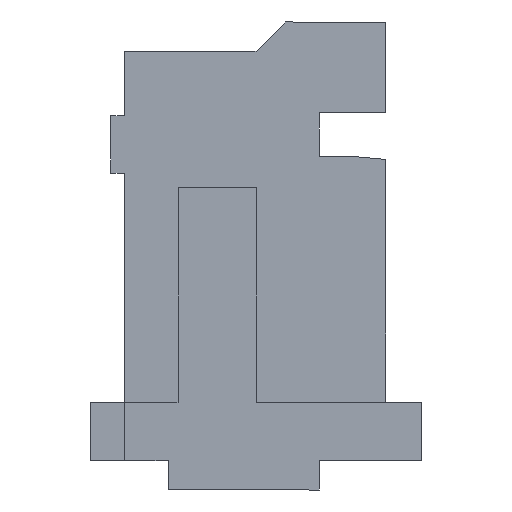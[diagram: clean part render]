
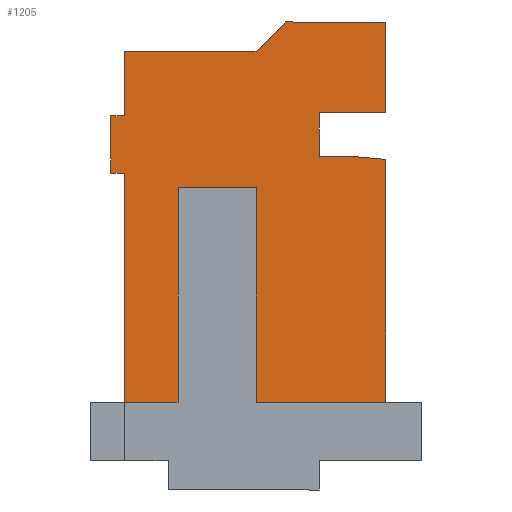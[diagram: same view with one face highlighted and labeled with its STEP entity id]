
A CAD part, left-side view. The second image highlights one B-rep face of the part: STEP entity #1205.
In plain terms, the highlighted planar face has unit normal (-1, 0, 0).
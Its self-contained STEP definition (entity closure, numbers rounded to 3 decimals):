
#644 = CARTESIAN_POINT ( 'NONE',  ( -2.594, 0.318, 0.989 ) ) ;
#651 = CARTESIAN_POINT ( 'NONE',  ( -2.594, 0.998, 1.018 ) ) ;
#707 = DIRECTION ( 'NONE',  ( 0., -1., 0. ) ) ;
#708 = VECTOR ( 'NONE', #707, 1000. ) ;
#709 = CARTESIAN_POINT ( 'NONE',  ( -2.594, 2.998, 1.468 ) ) ;
#710 = LINE ( 'NONE', #709, #708 ) ;
#717 = CARTESIAN_POINT ( 'NONE',  ( -2.594, 0.998, 1.468 ) ) ;
#728 = CARTESIAN_POINT ( 'NONE',  ( -2.594, 0.648, 1.018 ) ) ;
#753 = DIRECTION ( 'NONE',  ( 0., 0., 1. ) ) ;
#754 = VECTOR ( 'NONE', #753, 1000. ) ;
#755 = CARTESIAN_POINT ( 'NONE',  ( -2.594, 0.998, -1.502 ) ) ;
#756 = LINE ( 'NONE', #755, #754 ) ;
#874 = EDGE_CURVE ( 'NONE', #1458, #1290, #1718, .T. ) ;
#878 = EDGE_CURVE ( 'NONE', #879, #1105, #1714, .T. ) ;
#879 = VERTEX_POINT ( 'NONE', #1710 ) ;
#945 = EDGE_CURVE ( 'NONE', #968, #957, #756, .T. ) ;
#950 = VERTEX_POINT ( 'NONE', #728 ) ;
#957 = VERTEX_POINT ( 'NONE', #717 ) ;
#963 = EDGE_CURVE ( 'NONE', #957, #1322, #710, .T. ) ;
#968 = VERTEX_POINT ( 'NONE', #651 ) ;
#974 = VERTEX_POINT ( 'NONE', #644 ) ;
#976 = EDGE_CURVE ( 'NONE', #977, #974, #1795, .T. ) ;
#977 = VERTEX_POINT ( 'NONE', #1883 ) ;
#1105 = VERTEX_POINT ( 'NONE', #2163 ) ;
#1192 = EDGE_CURVE ( 'NONE', #974, #950, #2416, .T. ) ;
#1205 = ADVANCED_FACE ( 'NONE', ( #2377 ), #2362, .T. ) ;
#1206 = EDGE_LOOP ( 'NONE', ( #1207, #1208, #1209, #1210, #1211, #1266, #1267, #1268, #1271, #1274, #1276, #1431, #1432, #1435, #1438, #1441, #1443, #1444, #1277 ) ) ;
#1207 = ORIENTED_EDGE ( 'NONE', *, *, #945, .T. ) ;
#1208 = ORIENTED_EDGE ( 'NONE', *, *, #963, .T. ) ;
#1209 = ORIENTED_EDGE ( 'NONE', *, *, #1321, .T. ) ;
#1210 = ORIENTED_EDGE ( 'NONE', *, *, #1449, .T. ) ;
#1211 = ORIENTED_EDGE ( 'NONE', *, *, #1460, .T. ) ;
#1265 = EDGE_CURVE ( 'NONE', #950, #968, #2638, .T. ) ;
#1266 = ORIENTED_EDGE ( 'NONE', *, *, #874, .T. ) ;
#1267 = ORIENTED_EDGE ( 'NONE', *, *, #1289, .T. ) ;
#1268 = ORIENTED_EDGE ( 'NONE', *, *, #1269, .T. ) ;
#1269 = EDGE_CURVE ( 'NONE', #1332, #1270, #2634, .T. ) ;
#1270 = VERTEX_POINT ( 'NONE', #2630 ) ;
#1271 = ORIENTED_EDGE ( 'NONE', *, *, #1272, .T. ) ;
#1272 = EDGE_CURVE ( 'NONE', #1270, #1273, #2629, .T. ) ;
#1273 = VERTEX_POINT ( 'NONE', #2668 ) ;
#1274 = ORIENTED_EDGE ( 'NONE', *, *, #1275, .T. ) ;
#1275 = EDGE_CURVE ( 'NONE', #1273, #879, #2666, .T. ) ;
#1276 = ORIENTED_EDGE ( 'NONE', *, *, #878, .T. ) ;
#1277 = ORIENTED_EDGE ( 'NONE', *, *, #1265, .T. ) ;
#1289 = EDGE_CURVE ( 'NONE', #1290, #1332, #2539, .T. ) ;
#1290 = VERTEX_POINT ( 'NONE', #2535 ) ;
#1319 = VERTEX_POINT ( 'NONE', #2882 ) ;
#1321 = EDGE_CURVE ( 'NONE', #1322, #1319, #2881, .T. ) ;
#1322 = VERTEX_POINT ( 'NONE', #2877 ) ;
#1332 = VERTEX_POINT ( 'NONE', #2849 ) ;
#1431 = ORIENTED_EDGE ( 'NONE', *, *, #1493, .T. ) ;
#1432 = ORIENTED_EDGE ( 'NONE', *, *, #1433, .T. ) ;
#1433 = EDGE_CURVE ( 'NONE', #1491, #1434, #3001, .T. ) ;
#1434 = VERTEX_POINT ( 'NONE', #2997 ) ;
#1435 = ORIENTED_EDGE ( 'NONE', *, *, #1436, .T. ) ;
#1436 = EDGE_CURVE ( 'NONE', #1434, #1437, #2996, .T. ) ;
#1437 = VERTEX_POINT ( 'NONE', #2991 ) ;
#1438 = ORIENTED_EDGE ( 'NONE', *, *, #1439, .T. ) ;
#1439 = EDGE_CURVE ( 'NONE', #1437, #1440, #2990, .T. ) ;
#1440 = VERTEX_POINT ( 'NONE', #2986 ) ;
#1441 = ORIENTED_EDGE ( 'NONE', *, *, #1442, .T. ) ;
#1442 = EDGE_CURVE ( 'NONE', #1440, #977, #2985, .T. ) ;
#1443 = ORIENTED_EDGE ( 'NONE', *, *, #976, .T. ) ;
#1444 = ORIENTED_EDGE ( 'NONE', *, *, #1192, .T. ) ;
#1447 = VERTEX_POINT ( 'NONE', #2977 ) ;
#1449 = EDGE_CURVE ( 'NONE', #1319, #1447, #2975, .T. ) ;
#1458 = VERTEX_POINT ( 'NONE', #3354 ) ;
#1460 = EDGE_CURVE ( 'NONE', #1447, #1458, #3353, .T. ) ;
#1491 = VERTEX_POINT ( 'NONE', #3290 ) ;
#1493 = EDGE_CURVE ( 'NONE', #1105, #1491, #3288, .T. ) ;
#1710 = CARTESIAN_POINT ( 'NONE',  ( -2.594, 2.998, 0.848 ) ) ;
#1711 = DIRECTION ( 'NONE',  ( 0., 0., -1. ) ) ;
#1712 = VECTOR ( 'NONE', #1711, 1000. ) ;
#1713 = CARTESIAN_POINT ( 'NONE',  ( -2.594, 2.998, 2.098 ) ) ;
#1714 = LINE ( 'NONE', #1713, #1712 ) ;
#1715 = DIRECTION ( 'NONE',  ( 0., 1., 0. ) ) ;
#1716 = VECTOR ( 'NONE', #1715, 1000. ) ;
#1717 = CARTESIAN_POINT ( 'NONE',  ( -2.594, 1.648, 2.098 ) ) ;
#1718 = LINE ( 'NONE', #1717, #1716 ) ;
#1792 = DIRECTION ( 'NONE',  ( 0., 0., 1. ) ) ;
#1793 = VECTOR ( 'NONE', #1792, 1000. ) ;
#1794 = CARTESIAN_POINT ( 'NONE',  ( -2.594, 0.318, 2.398 ) ) ;
#1795 = LINE ( 'NONE', #1794, #1793 ) ;
#1883 = CARTESIAN_POINT ( 'NONE',  ( -2.594, 0.318, -1.502 ) ) ;
#2163 = CARTESIAN_POINT ( 'NONE',  ( -2.594, 2.998, -1.502 ) ) ;
#2358 = DIRECTION ( 'NONE',  ( 0., 1., 0. ) ) ;
#2359 = DIRECTION ( 'NONE',  ( -1., 0., 0. ) ) ;
#2360 = CARTESIAN_POINT ( 'NONE',  ( -2.594, 2.998, -1.502 ) ) ;
#2361 = AXIS2_PLACEMENT_3D ( 'NONE', #2360, #2359, #2358 ) ;
#2362 = PLANE ( 'NONE',  #2361 ) ;
#2377 = FACE_OUTER_BOUND ( 'NONE', #1206, .T. ) ;
#2413 = DIRECTION ( 'NONE',  ( 0., 0.996, 0.087 ) ) ;
#2414 = VECTOR ( 'NONE', #2413, 1000. ) ;
#2415 = CARTESIAN_POINT ( 'NONE',  ( -2.594, 2.762, 1.203 ) ) ;
#2416 = LINE ( 'NONE', #2415, #2414 ) ;
#2535 = CARTESIAN_POINT ( 'NONE',  ( -2.594, 2.998, 2.098 ) ) ;
#2536 = DIRECTION ( 'NONE',  ( 0., 0., -1. ) ) ;
#2537 = VECTOR ( 'NONE', #2536, 1000. ) ;
#2538 = CARTESIAN_POINT ( 'NONE',  ( -2.594, 2.998, 2.098 ) ) ;
#2539 = LINE ( 'NONE', #2538, #2537 ) ;
#2629 = LINE ( 'NONE', #2671, #2670 ) ;
#2630 = CARTESIAN_POINT ( 'NONE',  ( -2.594, 3.138, 1.438 ) ) ;
#2631 = DIRECTION ( 'NONE',  ( 0., 1., 0. ) ) ;
#2632 = VECTOR ( 'NONE', #2631, 1000. ) ;
#2633 = CARTESIAN_POINT ( 'NONE',  ( -2.594, 2.998, 1.438 ) ) ;
#2634 = LINE ( 'NONE', #2633, #2632 ) ;
#2635 = DIRECTION ( 'NONE',  ( 0., 1., 0. ) ) ;
#2636 = VECTOR ( 'NONE', #2635, 1000. ) ;
#2637 = CARTESIAN_POINT ( 'NONE',  ( -2.594, 2.998, 1.018 ) ) ;
#2638 = LINE ( 'NONE', #2637, #2636 ) ;
#2663 = DIRECTION ( 'NONE',  ( 0., -1., 0. ) ) ;
#2664 = VECTOR ( 'NONE', #2663, 1000. ) ;
#2665 = CARTESIAN_POINT ( 'NONE',  ( -2.594, 2.998, 0.848 ) ) ;
#2666 = LINE ( 'NONE', #2665, #2664 ) ;
#2668 = CARTESIAN_POINT ( 'NONE',  ( -2.594, 3.138, 0.848 ) ) ;
#2669 = DIRECTION ( 'NONE',  ( 0., 0., -1. ) ) ;
#2670 = VECTOR ( 'NONE', #2669, 1000. ) ;
#2671 = CARTESIAN_POINT ( 'NONE',  ( -2.594, 3.138, 1.438 ) ) ;
#2849 = CARTESIAN_POINT ( 'NONE',  ( -2.594, 2.998, 1.438 ) ) ;
#2877 = CARTESIAN_POINT ( 'NONE',  ( -2.594, 0.318, 1.468 ) ) ;
#2878 = DIRECTION ( 'NONE',  ( 0., 0., 1. ) ) ;
#2879 = VECTOR ( 'NONE', #2878, 1000. ) ;
#2880 = CARTESIAN_POINT ( 'NONE',  ( -2.594, 0.318, 2.398 ) ) ;
#2881 = LINE ( 'NONE', #2880, #2879 ) ;
#2882 = CARTESIAN_POINT ( 'NONE',  ( -2.594, 0.318, 2.398 ) ) ;
#2972 = DIRECTION ( 'NONE',  ( 0., 1., 0. ) ) ;
#2973 = VECTOR ( 'NONE', #2972, 1000. ) ;
#2974 = CARTESIAN_POINT ( 'NONE',  ( -2.594, 0.318, 2.398 ) ) ;
#2975 = LINE ( 'NONE', #2974, #2973 ) ;
#2977 = CARTESIAN_POINT ( 'NONE',  ( -2.594, 1.348, 2.398 ) ) ;
#2982 = DIRECTION ( 'NONE',  ( 0., -1., 0. ) ) ;
#2983 = VECTOR ( 'NONE', #2982, 1000. ) ;
#2984 = CARTESIAN_POINT ( 'NONE',  ( -2.594, 0.318, -1.502 ) ) ;
#2985 = LINE ( 'NONE', #2984, #2983 ) ;
#2986 = CARTESIAN_POINT ( 'NONE',  ( -2.594, 1.648, -1.502 ) ) ;
#2987 = DIRECTION ( 'NONE',  ( 0., 0., -1. ) ) ;
#2988 = VECTOR ( 'NONE', #2987, 1000. ) ;
#2989 = CARTESIAN_POINT ( 'NONE',  ( -2.594, 1.648, -1.502 ) ) ;
#2990 = LINE ( 'NONE', #2989, #2988 ) ;
#2991 = CARTESIAN_POINT ( 'NONE',  ( -2.594, 1.648, 0.698 ) ) ;
#2992 = DIRECTION ( 'NONE',  ( 0., -1., 0. ) ) ;
#2994 = VECTOR ( 'NONE', #2992, 1000. ) ;
#2995 = CARTESIAN_POINT ( 'NONE',  ( -2.594, 1.648, 0.698 ) ) ;
#2996 = LINE ( 'NONE', #2995, #2994 ) ;
#2997 = CARTESIAN_POINT ( 'NONE',  ( -2.594, 2.448, 0.698 ) ) ;
#2998 = DIRECTION ( 'NONE',  ( 0., 0., 1. ) ) ;
#2999 = VECTOR ( 'NONE', #2998, 1000. ) ;
#3000 = CARTESIAN_POINT ( 'NONE',  ( -2.594, 2.448, -1.502 ) ) ;
#3001 = LINE ( 'NONE', #3000, #2999 ) ;
#3285 = DIRECTION ( 'NONE',  ( 0., -1., 0. ) ) ;
#3286 = VECTOR ( 'NONE', #3285, 1000. ) ;
#3287 = CARTESIAN_POINT ( 'NONE',  ( -2.594, 2.998, -1.502 ) ) ;
#3288 = LINE ( 'NONE', #3287, #3286 ) ;
#3290 = CARTESIAN_POINT ( 'NONE',  ( -2.594, 2.448, -1.502 ) ) ;
#3350 = DIRECTION ( 'NONE',  ( 0., 0.707, -0.707 ) ) ;
#3351 = VECTOR ( 'NONE', #3350, 1000. ) ;
#3352 = CARTESIAN_POINT ( 'NONE',  ( -2.594, 1.348, 2.398 ) ) ;
#3353 = LINE ( 'NONE', #3352, #3351 ) ;
#3354 = CARTESIAN_POINT ( 'NONE',  ( -2.594, 1.648, 2.098 ) ) ;
